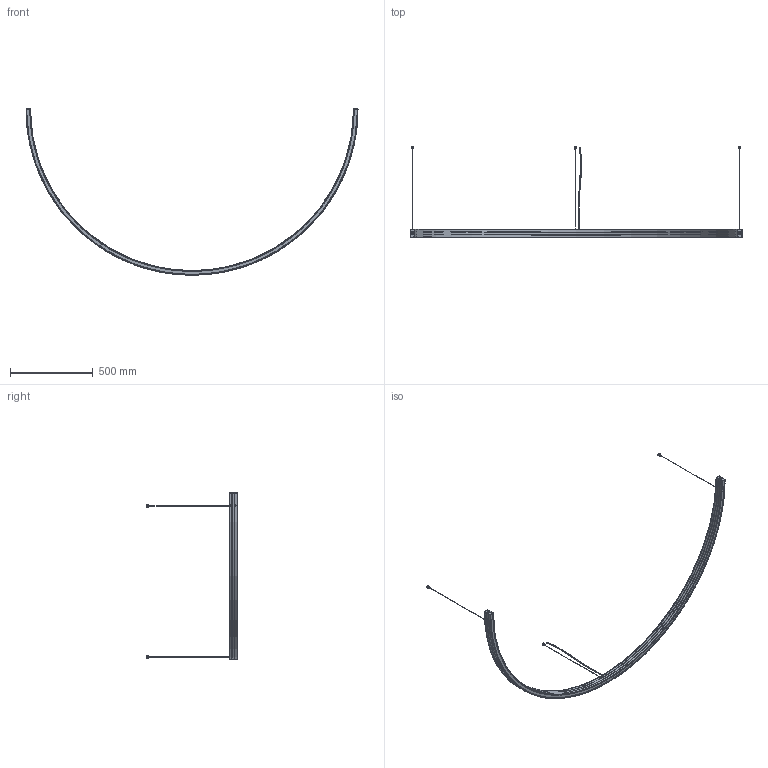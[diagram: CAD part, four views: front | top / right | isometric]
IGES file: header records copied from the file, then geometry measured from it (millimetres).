
Start section: SolidWorks IGES file using analytic representation for surfaces
Global section: file name: L:\Tecnico_PMT\R&D\NEMOstudio\ZIRKOL NEMO\ZIRKOL ROUND (arco)\3D\3D ZIRKOL ARCO 2M.IGS; native system: SolidWorks 2016; preprocessor: SolidWorks 2016; author: MartinaCornero; date: 230321.165347; units: millimetre
Bounding box: 2000 x 548.57 x 1002 mm (x, y, z)
Surface area: 1134891.4 mm2 (no closed solid volume)
Topology: 0 solids, 0 shells, 923 faces, 12498 edges, 12483 vertices
Faces by surface type: bspline 589, revolution 334
